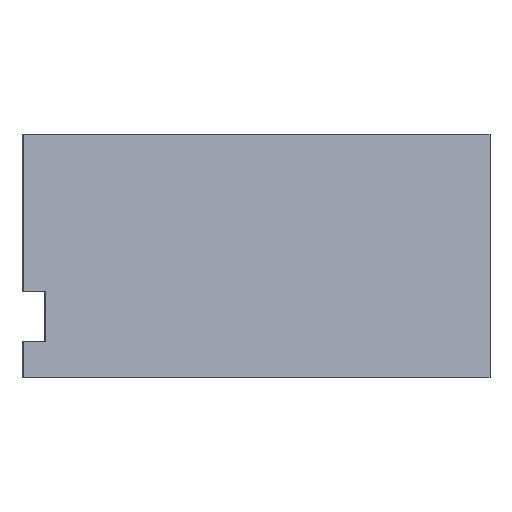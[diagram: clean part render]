
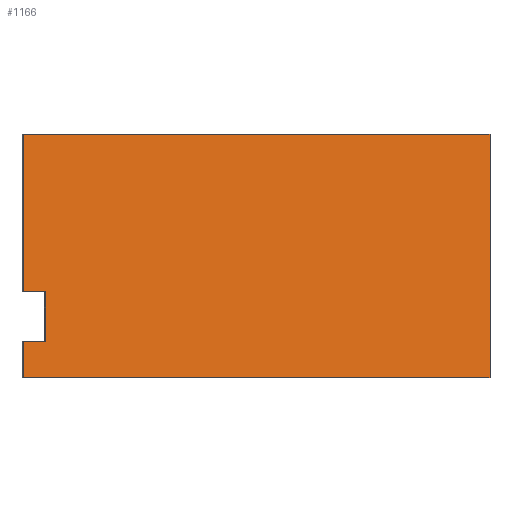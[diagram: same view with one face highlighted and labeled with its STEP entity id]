
A CAD part, left-side view. The second image highlights one B-rep face of the part: STEP entity #1166.
In plain terms, the highlighted planar face has unit normal (-0.961, -0.277, 0).
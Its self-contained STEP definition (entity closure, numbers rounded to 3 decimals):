
#12 = DIRECTION ( 'NONE',  ( -0.277, 0.961, 0. ) ) ;
#18 = ORIENTED_EDGE ( 'NONE', *, *, #500, .T. ) ;
#36 = VECTOR ( 'NONE', #876, 1000. ) ;
#49 = CARTESIAN_POINT ( 'NONE',  ( -21.922, -3.053, -77.838 ) ) ;
#53 = EDGE_CURVE ( 'NONE', #951, #828, #506, .T. ) ;
#68 = DIRECTION ( 'NONE',  ( 0.277, -0.961, 0. ) ) ;
#72 = EDGE_CURVE ( 'NONE', #828, #84, #847, .T. ) ;
#84 = VERTEX_POINT ( 'NONE', #660 ) ;
#91 = VERTEX_POINT ( 'NONE', #107 ) ;
#97 = CARTESIAN_POINT ( 'NONE',  ( -21.922, -3.053, -58.838 ) ) ;
#107 = CARTESIAN_POINT ( 'NONE',  ( -21.922, -3.053, 2. ) ) ;
#153 = DIRECTION ( 'NONE',  ( 0., 0., -1. ) ) ;
#209 = CARTESIAN_POINT ( 'NONE',  ( -19.433, -11.702, -58.838 ) ) ;
#225 = DIRECTION ( 'NONE',  ( 0., 0., -1. ) ) ;
#232 = EDGE_CURVE ( 'NONE', #419, #265, #619, .T. ) ;
#239 = FACE_OUTER_BOUND ( 'NONE', #918, .T. ) ;
#265 = VERTEX_POINT ( 'NONE', #598 ) ;
#299 = CARTESIAN_POINT ( 'NONE',  ( -19.433, -11.702, -77.838 ) ) ;
#307 = DIRECTION ( 'NONE',  ( 0.277, -0.961, 0. ) ) ;
#320 = CARTESIAN_POINT ( 'NONE',  ( 29.831, -182.862, 2. ) ) ;
#362 = CARTESIAN_POINT ( 'NONE',  ( -21.056, -6.061, 0. ) ) ;
#397 = CARTESIAN_POINT ( 'NONE',  ( 29.831, -182.862, 2. ) ) ;
#405 = LINE ( 'NONE', #1157, #839 ) ;
#415 = LINE ( 'NONE', #493, #36 ) ;
#419 = VERTEX_POINT ( 'NONE', #898 ) ;
#452 = ORIENTED_EDGE ( 'NONE', *, *, #53, .F. ) ;
#456 = VERTEX_POINT ( 'NONE', #320 ) ;
#493 = CARTESIAN_POINT ( 'NONE',  ( 29.831, -182.862, 2. ) ) ;
#500 = EDGE_CURVE ( 'NONE', #456, #91, #415, .T. ) ;
#501 = LINE ( 'NONE', #49, #720 ) ;
#505 = EDGE_CURVE ( 'NONE', #521, #419, #405, .T. ) ;
#506 = LINE ( 'NONE', #604, #558 ) ;
#521 = VERTEX_POINT ( 'NONE', #965 ) ;
#558 = VECTOR ( 'NONE', #561, 1000. ) ;
#561 = DIRECTION ( 'NONE',  ( 0., 0., 1. ) ) ;
#598 = CARTESIAN_POINT ( 'NONE',  ( 29.831, -182.862, -92. ) ) ;
#602 = DIRECTION ( 'NONE',  ( 0., 0., 1. ) ) ;
#604 = CARTESIAN_POINT ( 'NONE',  ( -19.433, -11.702, -58.838 ) ) ;
#608 = LINE ( 'NONE', #699, #1193 ) ;
#615 = DIRECTION ( 'NONE',  ( 0.277, -0.961, 0. ) ) ;
#619 = LINE ( 'NONE', #715, #690 ) ;
#634 = VECTOR ( 'NONE', #12, 1000. ) ;
#650 = ORIENTED_EDGE ( 'NONE', *, *, #505, .T. ) ;
#660 = CARTESIAN_POINT ( 'NONE',  ( -21.922, -3.053, -58.838 ) ) ;
#678 = ORIENTED_EDGE ( 'NONE', *, *, #953, .T. ) ;
#687 = ORIENTED_EDGE ( 'NONE', *, *, #72, .F. ) ;
#690 = VECTOR ( 'NONE', #68, 1000. ) ;
#699 = CARTESIAN_POINT ( 'NONE',  ( -21.922, -3.053, 2. ) ) ;
#715 = CARTESIAN_POINT ( 'NONE',  ( 29.831, -182.862, -92. ) ) ;
#720 = VECTOR ( 'NONE', #307, 1000. ) ;
#762 = ORIENTED_EDGE ( 'NONE', *, *, #958, .F. ) ;
#780 = VECTOR ( 'NONE', #602, 1000. ) ;
#828 = VERTEX_POINT ( 'NONE', #209 ) ;
#839 = VECTOR ( 'NONE', #225, 1000. ) ;
#847 = LINE ( 'NONE', #97, #634 ) ;
#876 = DIRECTION ( 'NONE',  ( -0.277, 0.961, 0. ) ) ;
#898 = CARTESIAN_POINT ( 'NONE',  ( -21.922, -3.053, -92. ) ) ;
#900 = PLANE ( 'NONE',  #1091 ) ;
#918 = EDGE_LOOP ( 'NONE', ( #687, #452, #762, #650, #960, #678, #18, #1007 ) ) ;
#951 = VERTEX_POINT ( 'NONE', #299 ) ;
#953 = EDGE_CURVE ( 'NONE', #265, #456, #1177, .T. ) ;
#958 = EDGE_CURVE ( 'NONE', #521, #951, #501, .T. ) ;
#960 = ORIENTED_EDGE ( 'NONE', *, *, #232, .T. ) ;
#965 = CARTESIAN_POINT ( 'NONE',  ( -21.922, -3.053, -77.838 ) ) ;
#1007 = ORIENTED_EDGE ( 'NONE', *, *, #1041, .T. ) ;
#1041 = EDGE_CURVE ( 'NONE', #91, #84, #608, .T. ) ;
#1091 = AXIS2_PLACEMENT_3D ( 'NONE', #362, #1096, #615 ) ;
#1096 = DIRECTION ( 'NONE',  ( -0.961, -0.277, 0. ) ) ;
#1157 = CARTESIAN_POINT ( 'NONE',  ( -21.922, -3.053, 2. ) ) ;
#1166 = ADVANCED_FACE ( 'NONE', ( #239 ), #900, .T. ) ;
#1177 = LINE ( 'NONE', #397, #780 ) ;
#1193 = VECTOR ( 'NONE', #153, 1000. ) ;
